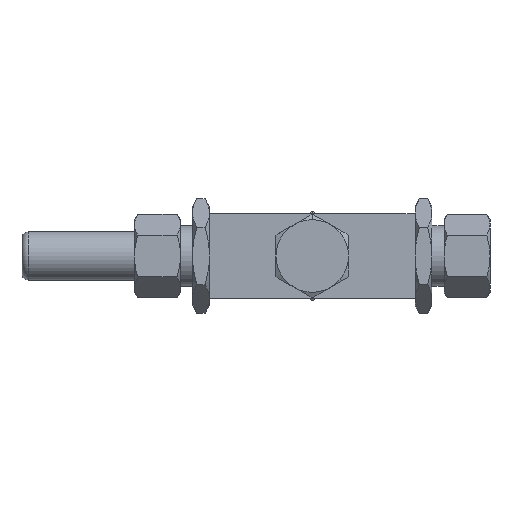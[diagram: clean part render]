
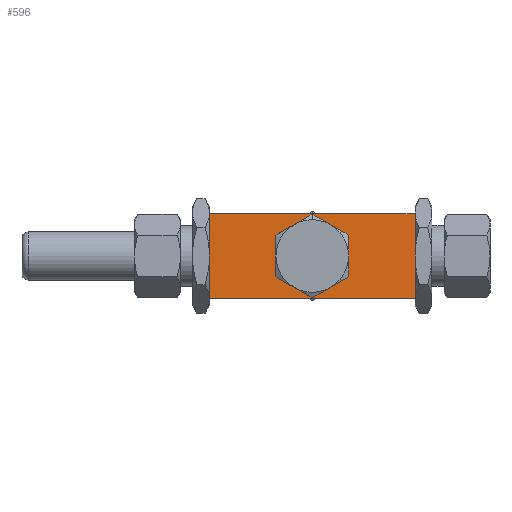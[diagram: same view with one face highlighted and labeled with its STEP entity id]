
A CAD part, front view. The second image highlights one B-rep face of the part: STEP entity #596.
In plain terms, the highlighted planar face has unit normal (0, -1, 0).
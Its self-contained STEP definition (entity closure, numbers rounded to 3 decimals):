
#21 = VERTEX_POINT ( 'NONE', #2028 ) ;
#27 = CARTESIAN_POINT ( 'NONE',  ( -7.5, -32.5, 12.99 ) ) ;
#75 = EDGE_CURVE ( 'NONE', #6183, #21, #2673, .T. ) ;
#152 = ORIENTED_EDGE ( 'NONE', *, *, #450, .F. ) ;
#450 = EDGE_CURVE ( 'NONE', #21, #1790, #3975, .T. ) ;
#457 = CARTESIAN_POINT ( 'NONE',  ( -42.5, -32.5, 17.5 ) ) ;
#508 = EDGE_LOOP ( 'NONE', ( #3534, #3689, #2100, #2495 ) ) ;
#532 = DIRECTION ( 'NONE',  ( 0., 0., -1. ) ) ;
#596 = ADVANCED_FACE ( 'NONE', ( #1431, #3316 ), #1400, .F. ) ;
#727 = CARTESIAN_POINT ( 'NONE',  ( 7.5, -32.5, 12.99 ) ) ;
#775 = VERTEX_POINT ( 'NONE', #5992 ) ;
#889 = VERTEX_POINT ( 'NONE', #4653 ) ;
#962 = ORIENTED_EDGE ( 'NONE', *, *, #3257, .F. ) ;
#1015 = DIRECTION ( 'NONE',  ( 1., 0., 0. ) ) ;
#1081 = DIRECTION ( 'NONE',  ( 0., 0., -1. ) ) ;
#1111 = ORIENTED_EDGE ( 'NONE', *, *, #75, .F. ) ;
#1160 = CARTESIAN_POINT ( 'NONE',  ( 0., -32.5, 0. ) ) ;
#1295 = CIRCLE ( 'NONE', #5307, 15. ) ;
#1360 = EDGE_CURVE ( 'NONE', #2300, #5709, #2595, .T. ) ;
#1400 = PLANE ( 'NONE',  #2487 ) ;
#1431 = FACE_OUTER_BOUND ( 'NONE', #508, .T. ) ;
#1790 = VERTEX_POINT ( 'NONE', #727 ) ;
#1971 = EDGE_LOOP ( 'NONE', ( #5076, #152, #1111, #962, #4075, #2005, #6248 ) ) ;
#2005 = ORIENTED_EDGE ( 'NONE', *, *, #4500, .F. ) ;
#2028 = CARTESIAN_POINT ( 'NONE',  ( 15., -32.5, 0. ) ) ;
#2069 = AXIS2_PLACEMENT_3D ( 'NONE', #3186, #5133, #3732 ) ;
#2092 = CARTESIAN_POINT ( 'NONE',  ( -15., -32.5, 0. ) ) ;
#2100 = ORIENTED_EDGE ( 'NONE', *, *, #5906, .F. ) ;
#2252 = DIRECTION ( 'NONE',  ( 0., 0., -1. ) ) ;
#2277 = VECTOR ( 'NONE', #3879, 1000. ) ;
#2300 = VERTEX_POINT ( 'NONE', #27 ) ;
#2313 = DIRECTION ( 'NONE',  ( 1., 0., 0. ) ) ;
#2468 = VECTOR ( 'NONE', #4885, 1000. ) ;
#2487 = AXIS2_PLACEMENT_3D ( 'NONE', #457, #3884, #3856 ) ;
#2495 = ORIENTED_EDGE ( 'NONE', *, *, #3695, .T. ) ;
#2517 = VERTEX_POINT ( 'NONE', #5119 ) ;
#2546 = CARTESIAN_POINT ( 'NONE',  ( 0., -32.5, 0. ) ) ;
#2595 = CIRCLE ( 'NONE', #3522, 15. ) ;
#2673 = CIRCLE ( 'NONE', #4209, 15. ) ;
#2704 = CARTESIAN_POINT ( 'NONE',  ( 7.5, -32.5, -12.99 ) ) ;
#2800 = DIRECTION ( 'NONE',  ( 0., -1., 0. ) ) ;
#2850 = AXIS2_PLACEMENT_3D ( 'NONE', #6069, #5422, #532 ) ;
#2883 = LINE ( 'NONE', #4840, #2277 ) ;
#3186 = CARTESIAN_POINT ( 'NONE',  ( 0., -32.5, 0. ) ) ;
#3194 = CARTESIAN_POINT ( 'NONE',  ( 0., -32.5, 0. ) ) ;
#3196 = CARTESIAN_POINT ( 'NONE',  ( -42.5, -32.5, 17.5 ) ) ;
#3257 = EDGE_CURVE ( 'NONE', #889, #6183, #4540, .T. ) ;
#3284 = LINE ( 'NONE', #3196, #4596 ) ;
#3316 = FACE_BOUND ( 'NONE', #1971, .T. ) ;
#3319 = CIRCLE ( 'NONE', #5975, 15. ) ;
#3379 = EDGE_CURVE ( 'NONE', #5661, #2517, #2883, .T. ) ;
#3486 = LINE ( 'NONE', #5338, #5005 ) ;
#3522 = AXIS2_PLACEMENT_3D ( 'NONE', #6146, #5210, #2252 ) ;
#3534 = ORIENTED_EDGE ( 'NONE', *, *, #5591, .T. ) ;
#3689 = ORIENTED_EDGE ( 'NONE', *, *, #3379, .F. ) ;
#3695 = EDGE_CURVE ( 'NONE', #775, #5244, #4320, .T. ) ;
#3732 = DIRECTION ( 'NONE',  ( 0., 0., -1. ) ) ;
#3800 = CARTESIAN_POINT ( 'NONE',  ( 0., -32.5, 0. ) ) ;
#3856 = DIRECTION ( 'NONE',  ( 0., 0., 1. ) ) ;
#3879 = DIRECTION ( 'NONE',  ( 0., 0., -1. ) ) ;
#3884 = DIRECTION ( 'NONE',  ( 0., 1., 0. ) ) ;
#3975 = CIRCLE ( 'NONE', #2850, 15. ) ;
#4075 = ORIENTED_EDGE ( 'NONE', *, *, #5803, .F. ) ;
#4156 = DIRECTION ( 'NONE',  ( 0., -1., 0. ) ) ;
#4209 = AXIS2_PLACEMENT_3D ( 'NONE', #2546, #4543, #1081 ) ;
#4219 = DIRECTION ( 'NONE',  ( 0., 0., -1. ) ) ;
#4280 = CARTESIAN_POINT ( 'NONE',  ( -7.5, -32.5, -12.99 ) ) ;
#4320 = LINE ( 'NONE', #4405, #2468 ) ;
#4405 = CARTESIAN_POINT ( 'NONE',  ( -42.5, -32.5, 17.5 ) ) ;
#4481 = DIRECTION ( 'NONE',  ( 0., 0., -1. ) ) ;
#4500 = EDGE_CURVE ( 'NONE', #5709, #5910, #5157, .T. ) ;
#4540 = CIRCLE ( 'NONE', #2069, 15. ) ;
#4543 = DIRECTION ( 'NONE',  ( 0., -1., 0. ) ) ;
#4548 = DIRECTION ( 'NONE',  ( 0., -1., 0. ) ) ;
#4596 = VECTOR ( 'NONE', #2313, 1000. ) ;
#4653 = CARTESIAN_POINT ( 'NONE',  ( 0., -32.5, -15. ) ) ;
#4840 = CARTESIAN_POINT ( 'NONE',  ( 42.5, -32.5, 17.5 ) ) ;
#4885 = DIRECTION ( 'NONE',  ( 0., 0., -1. ) ) ;
#4939 = EDGE_CURVE ( 'NONE', #1790, #2300, #3319, .T. ) ;
#5005 = VECTOR ( 'NONE', #1015, 1000. ) ;
#5076 = ORIENTED_EDGE ( 'NONE', *, *, #4939, .F. ) ;
#5119 = CARTESIAN_POINT ( 'NONE',  ( 42.5, -32.5, -17.5 ) ) ;
#5133 = DIRECTION ( 'NONE',  ( 0., -1., 0. ) ) ;
#5157 = CIRCLE ( 'NONE', #6185, 15. ) ;
#5175 = DIRECTION ( 'NONE',  ( 0., 0., -1. ) ) ;
#5210 = DIRECTION ( 'NONE',  ( 0., -1., 0. ) ) ;
#5244 = VERTEX_POINT ( 'NONE', #5437 ) ;
#5307 = AXIS2_PLACEMENT_3D ( 'NONE', #3800, #4156, #4219 ) ;
#5338 = CARTESIAN_POINT ( 'NONE',  ( -42.5, -32.5, -17.5 ) ) ;
#5422 = DIRECTION ( 'NONE',  ( 0., -1., 0. ) ) ;
#5437 = CARTESIAN_POINT ( 'NONE',  ( -42.5, -32.5, -17.5 ) ) ;
#5528 = CARTESIAN_POINT ( 'NONE',  ( 42.5, -32.5, 17.5 ) ) ;
#5591 = EDGE_CURVE ( 'NONE', #5244, #2517, #3486, .T. ) ;
#5661 = VERTEX_POINT ( 'NONE', #5528 ) ;
#5709 = VERTEX_POINT ( 'NONE', #2092 ) ;
#5803 = EDGE_CURVE ( 'NONE', #5910, #889, #1295, .T. ) ;
#5906 = EDGE_CURVE ( 'NONE', #775, #5661, #3284, .T. ) ;
#5910 = VERTEX_POINT ( 'NONE', #4280 ) ;
#5975 = AXIS2_PLACEMENT_3D ( 'NONE', #3194, #2800, #5175 ) ;
#5992 = CARTESIAN_POINT ( 'NONE',  ( -42.5, -32.5, 17.5 ) ) ;
#6069 = CARTESIAN_POINT ( 'NONE',  ( 0., -32.5, 0. ) ) ;
#6146 = CARTESIAN_POINT ( 'NONE',  ( 0., -32.5, 0. ) ) ;
#6183 = VERTEX_POINT ( 'NONE', #2704 ) ;
#6185 = AXIS2_PLACEMENT_3D ( 'NONE', #1160, #4548, #4481 ) ;
#6248 = ORIENTED_EDGE ( 'NONE', *, *, #1360, .F. ) ;
